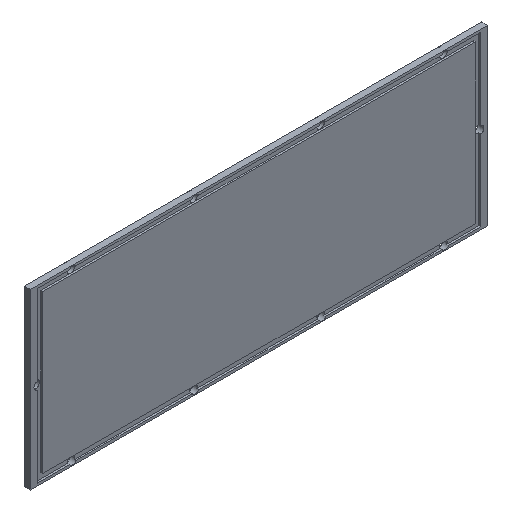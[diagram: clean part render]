
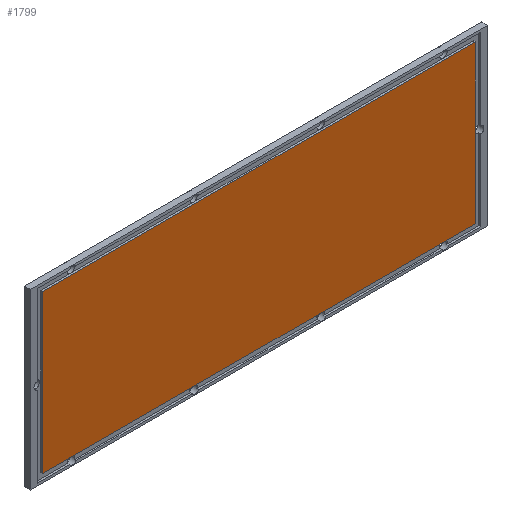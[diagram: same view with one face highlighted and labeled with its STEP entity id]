
A CAD part, isometric view. The second image highlights one B-rep face of the part: STEP entity #1799.
In plain terms, the highlighted planar face has unit normal (0, -1, 0).
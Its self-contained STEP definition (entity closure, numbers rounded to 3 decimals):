
#1636 = PLANE('',#1637);
#1637 = AXIS2_PLACEMENT_3D('',#1638,#1639,#1640);
#1638 = CARTESIAN_POINT('',(-104.8,36.2,7.8));
#1639 = DIRECTION('',(0.,0.,1.));
#1640 = DIRECTION('',(1.,0.,-0.));
#1664 = PLANE('',#1665);
#1665 = AXIS2_PLACEMENT_3D('',#1666,#1667,#1668);
#1666 = CARTESIAN_POINT('',(102.2,36.2,7.5));
#1667 = DIRECTION('',(1.,0.,-0.));
#1668 = DIRECTION('',(0.,0.,1.));
#1692 = PLANE('',#1693);
#1693 = AXIS2_PLACEMENT_3D('',#1694,#1695,#1696);
#1694 = CARTESIAN_POINT('',(-104.8,36.2,82.2));
#1695 = DIRECTION('',(0.,0.,1.));
#1696 = DIRECTION('',(1.,0.,-0.));
#1718 = PLANE('',#1719);
#1719 = AXIS2_PLACEMENT_3D('',#1720,#1721,#1722);
#1720 = CARTESIAN_POINT('',(-102.2,36.2,7.5));
#1721 = DIRECTION('',(1.,0.,-0.));
#1722 = DIRECTION('',(0.,0.,1.));
#1735 = VERTEX_POINT('',#1736);
#1736 = CARTESIAN_POINT('',(-102.2,36.25,82.2));
#1755 = EDGE_CURVE('',#1735,#1756,#1758,.T.);
#1756 = VERTEX_POINT('',#1757);
#1757 = CARTESIAN_POINT('',(-102.2,36.25,7.8));
#1758 = SURFACE_CURVE('',#1759,(#1763,#1769),.PCURVE_S1.);
#1759 = LINE('',#1760,#1761);
#1760 = CARTESIAN_POINT('',(-102.2,36.25,5.75));
#1761 = VECTOR('',#1762,1.);
#1762 = DIRECTION('',(-0.,0.,-1.));
#1763 = PCURVE('',#1718,#1764);
#1764 = DEFINITIONAL_REPRESENTATION('',(#1765),#1768);
#1765 = B_SPLINE_CURVE_WITH_KNOTS('',1,(#1766,#1767),.UNSPECIFIED.,.F.,
  .F.,(2,2),(-76.75,-1.75),.PIECEWISE_BEZIER_KNOTS.);
#1766 = CARTESIAN_POINT('',(75.,-0.05));
#1767 = CARTESIAN_POINT('',(0.,-0.05));
#1768 = ( GEOMETRIC_REPRESENTATION_CONTEXT(2) 
PARAMETRIC_REPRESENTATION_CONTEXT() REPRESENTATION_CONTEXT('2D SPACE',''
  ) );
#1769 = PCURVE('',#1770,#1775);
#1770 = PLANE('',#1771);
#1771 = AXIS2_PLACEMENT_3D('',#1772,#1773,#1774);
#1772 = CARTESIAN_POINT('',(-108.,36.25,4.));
#1773 = DIRECTION('',(-0.,1.,0.));
#1774 = DIRECTION('',(0.,0.,1.));
#1775 = DEFINITIONAL_REPRESENTATION('',(#1776),#1779);
#1776 = B_SPLINE_CURVE_WITH_KNOTS('',1,(#1777,#1778),.UNSPECIFIED.,.F.,
  .F.,(2,2),(-76.75,-1.75),.PIECEWISE_BEZIER_KNOTS.);
#1777 = CARTESIAN_POINT('',(78.5,5.8));
#1778 = CARTESIAN_POINT('',(3.5,5.8));
#1779 = ( GEOMETRIC_REPRESENTATION_CONTEXT(2) 
PARAMETRIC_REPRESENTATION_CONTEXT() REPRESENTATION_CONTEXT('2D SPACE',''
  ) );
#1799 = ADVANCED_FACE('',(#1800),#1770,.F.);
#1800 = FACE_BOUND('',#1801,.F.);
#1801 = EDGE_LOOP('',(#1802,#1825,#1844,#1845));
#1802 = ORIENTED_EDGE('',*,*,#1803,.T.);
#1803 = EDGE_CURVE('',#1804,#1806,#1808,.T.);
#1804 = VERTEX_POINT('',#1805);
#1805 = CARTESIAN_POINT('',(102.2,36.25,82.2));
#1806 = VERTEX_POINT('',#1807);
#1807 = CARTESIAN_POINT('',(102.2,36.25,7.8));
#1808 = SURFACE_CURVE('',#1809,(#1813,#1819),.PCURVE_S1.);
#1809 = LINE('',#1810,#1811);
#1810 = CARTESIAN_POINT('',(102.2,36.25,5.75));
#1811 = VECTOR('',#1812,1.);
#1812 = DIRECTION('',(-0.,0.,-1.));
#1813 = PCURVE('',#1770,#1814);
#1814 = DEFINITIONAL_REPRESENTATION('',(#1815),#1818);
#1815 = B_SPLINE_CURVE_WITH_KNOTS('',1,(#1816,#1817),.UNSPECIFIED.,.F.,
  .F.,(2,2),(-76.75,-1.75),.PIECEWISE_BEZIER_KNOTS.);
#1816 = CARTESIAN_POINT('',(78.5,210.2));
#1817 = CARTESIAN_POINT('',(3.5,210.2));
#1818 = ( GEOMETRIC_REPRESENTATION_CONTEXT(2) 
PARAMETRIC_REPRESENTATION_CONTEXT() REPRESENTATION_CONTEXT('2D SPACE',''
  ) );
#1819 = PCURVE('',#1664,#1820);
#1820 = DEFINITIONAL_REPRESENTATION('',(#1821),#1824);
#1821 = B_SPLINE_CURVE_WITH_KNOTS('',1,(#1822,#1823),.UNSPECIFIED.,.F.,
  .F.,(2,2),(-76.75,-1.75),.PIECEWISE_BEZIER_KNOTS.);
#1822 = CARTESIAN_POINT('',(75.,-0.05));
#1823 = CARTESIAN_POINT('',(0.,-0.05));
#1824 = ( GEOMETRIC_REPRESENTATION_CONTEXT(2) 
PARAMETRIC_REPRESENTATION_CONTEXT() REPRESENTATION_CONTEXT('2D SPACE',''
  ) );
#1825 = ORIENTED_EDGE('',*,*,#1826,.F.);
#1826 = EDGE_CURVE('',#1756,#1806,#1827,.T.);
#1827 = SURFACE_CURVE('',#1828,(#1832,#1838),.PCURVE_S1.);
#1828 = LINE('',#1829,#1830);
#1829 = CARTESIAN_POINT('',(-106.4,36.25,7.8));
#1830 = VECTOR('',#1831,1.);
#1831 = DIRECTION('',(1.,0.,-0.));
#1832 = PCURVE('',#1770,#1833);
#1833 = DEFINITIONAL_REPRESENTATION('',(#1834),#1837);
#1834 = B_SPLINE_CURVE_WITH_KNOTS('',1,(#1835,#1836),.UNSPECIFIED.,.F.,
  .F.,(2,2),(1.6,211.2),.PIECEWISE_BEZIER_KNOTS.);
#1835 = CARTESIAN_POINT('',(3.8,3.2));
#1836 = CARTESIAN_POINT('',(3.8,212.8));
#1837 = ( GEOMETRIC_REPRESENTATION_CONTEXT(2) 
PARAMETRIC_REPRESENTATION_CONTEXT() REPRESENTATION_CONTEXT('2D SPACE',''
  ) );
#1838 = PCURVE('',#1636,#1839);
#1839 = DEFINITIONAL_REPRESENTATION('',(#1840),#1843);
#1840 = B_SPLINE_CURVE_WITH_KNOTS('',1,(#1841,#1842),.UNSPECIFIED.,.F.,
  .F.,(2,2),(1.6,211.2),.PIECEWISE_BEZIER_KNOTS.);
#1841 = CARTESIAN_POINT('',(0.,0.05));
#1842 = CARTESIAN_POINT('',(209.6,0.05));
#1843 = ( GEOMETRIC_REPRESENTATION_CONTEXT(2) 
PARAMETRIC_REPRESENTATION_CONTEXT() REPRESENTATION_CONTEXT('2D SPACE',''
  ) );
#1844 = ORIENTED_EDGE('',*,*,#1755,.F.);
#1845 = ORIENTED_EDGE('',*,*,#1846,.T.);
#1846 = EDGE_CURVE('',#1735,#1804,#1847,.T.);
#1847 = SURFACE_CURVE('',#1848,(#1852,#1858),.PCURVE_S1.);
#1848 = LINE('',#1849,#1850);
#1849 = CARTESIAN_POINT('',(-106.4,36.25,82.2));
#1850 = VECTOR('',#1851,1.);
#1851 = DIRECTION('',(1.,0.,-0.));
#1852 = PCURVE('',#1770,#1853);
#1853 = DEFINITIONAL_REPRESENTATION('',(#1854),#1857);
#1854 = B_SPLINE_CURVE_WITH_KNOTS('',1,(#1855,#1856),.UNSPECIFIED.,.F.,
  .F.,(2,2),(1.6,211.2),.PIECEWISE_BEZIER_KNOTS.);
#1855 = CARTESIAN_POINT('',(78.2,3.2));
#1856 = CARTESIAN_POINT('',(78.2,212.8));
#1857 = ( GEOMETRIC_REPRESENTATION_CONTEXT(2) 
PARAMETRIC_REPRESENTATION_CONTEXT() REPRESENTATION_CONTEXT('2D SPACE',''
  ) );
#1858 = PCURVE('',#1692,#1859);
#1859 = DEFINITIONAL_REPRESENTATION('',(#1860),#1863);
#1860 = B_SPLINE_CURVE_WITH_KNOTS('',1,(#1861,#1862),.UNSPECIFIED.,.F.,
  .F.,(2,2),(1.6,211.2),.PIECEWISE_BEZIER_KNOTS.);
#1861 = CARTESIAN_POINT('',(0.,0.05));
#1862 = CARTESIAN_POINT('',(209.6,0.05));
#1863 = ( GEOMETRIC_REPRESENTATION_CONTEXT(2) 
PARAMETRIC_REPRESENTATION_CONTEXT() REPRESENTATION_CONTEXT('2D SPACE',''
  ) );
